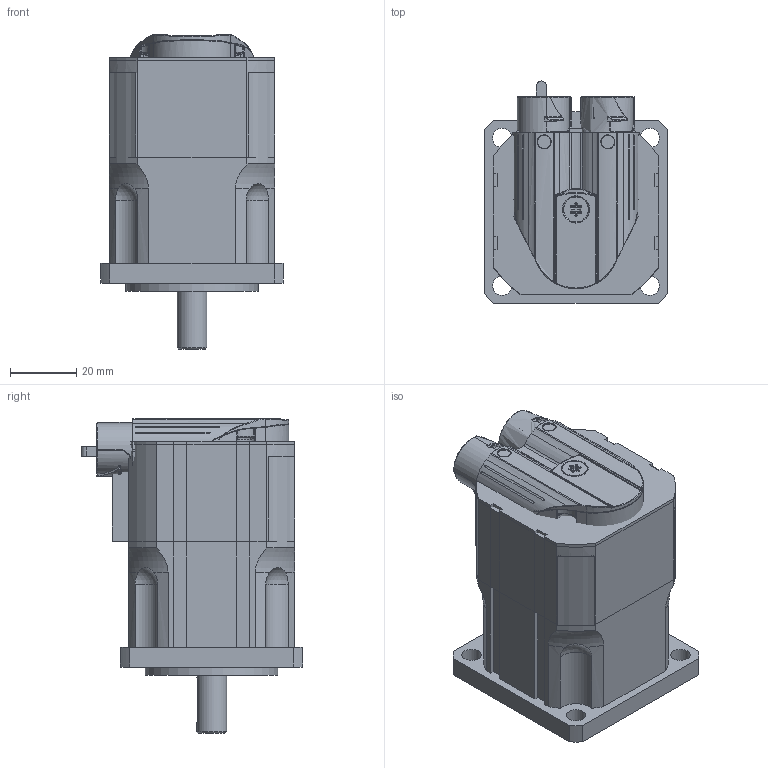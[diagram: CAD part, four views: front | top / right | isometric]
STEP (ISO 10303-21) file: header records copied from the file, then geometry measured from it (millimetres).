
FILE_DESCRIPTION(/* description */ ('Alibre Inc.'),/* implementation_level */ '2;1');
FILE_NAME(/* name */ 'export0',/* time_stamp */ '2011-03-21T09:54:29+01:00',/* author */ (''),/* organization */ (''),/* preprocessor_version */ 'ST-DEVELOPER v12',/* originating_system */ 'Alibre',/* authorisation */ '');
FILE_SCHEMA (('ALIBRE_SCHEMA','CONFIG_CONTROL_DESIGN'));
Length unit declared in the file: millimetre
Products named in the file (5): ID_1; ID_2
Bounding box: 55 x 66.86 x 94.98 mm (x, y, z)
Volume: 260448 mm3; surface area: 41487.6 mm2
Topology: 4 solids, 5 shells, 1379 faces, 3386 edges, 2058 vertices
Faces by surface type: bspline 491, plane 371, cylinder 351, torus 86, cone 50, sphere 30
Full cylindrical faces by diameter (mm): 1 x21, 1.5 x1, 1.8 x2, 3.2 x4, 4 x1, 7.5 x1, 8 x1, 9 x1, 11.75 x1, 16.2 x1, 16.95 x1, 17.025 x1, 18.8 x1, 19.8 x1, 20 x1, 22.765 x1, 26 x1, 40 x1
Entity records: 149871 total; most frequent: CARTESIAN_POINT 84614, ORIENTED_EDGE 13102, DIRECTION 10217, EDGE_CURVE 6551, AXIS2_PLACEMENT_3D 4296, VERTEX_POINT 4161, EDGE_LOOP 3306, FACE_BOUND 3306
